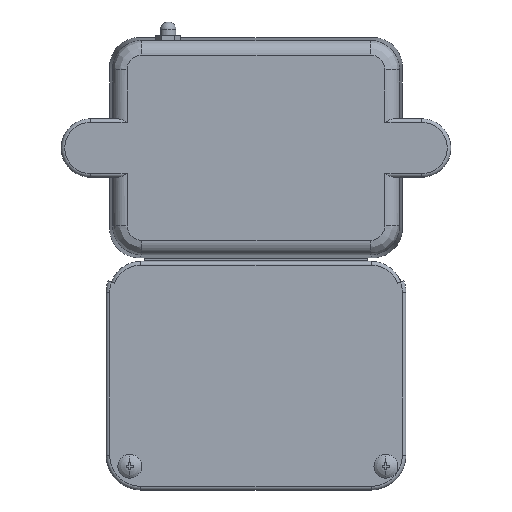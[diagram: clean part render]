
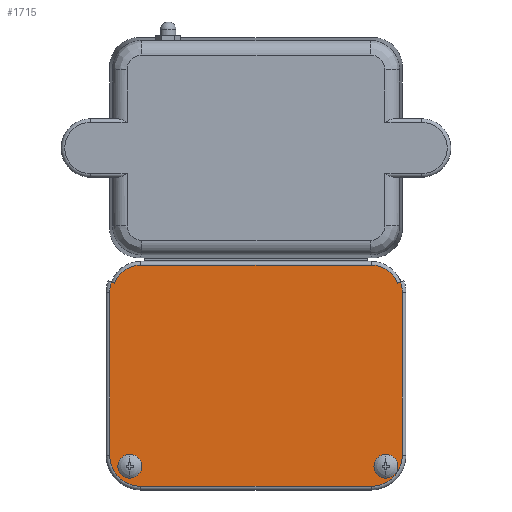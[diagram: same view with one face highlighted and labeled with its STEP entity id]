
A CAD part, front view. The second image highlights one B-rep face of the part: STEP entity #1715.
In plain terms, the highlighted planar face has unit normal (0, -1, 0).
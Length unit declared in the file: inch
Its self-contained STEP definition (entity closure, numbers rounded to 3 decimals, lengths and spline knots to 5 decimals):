
#302=DIRECTION('',(-1.,0.,0.));
#303=VECTOR('',#302,3.938);
#304=CARTESIAN_POINT('',(4.469,2.875,-0.124));
#305=LINE('',#304,#303);
#315=CARTESIAN_POINT('',(4.469,2.875,-0.593));
#316=DIRECTION('',(0.,-1.,0.));
#317=DIRECTION('',(0.94,0.,0.342));
#318=AXIS2_PLACEMENT_3D('',#315,#316,#317);
#412=DIRECTION('',(-0.94,0.,0.342));
#413=VECTOR('',#412,0.062);
#414=CARTESIAN_POINT('',(0.09028,2.875,-0.43259));
#415=LINE('',#414,#413);
#424=CARTESIAN_POINT('',(0.531,2.875,-0.593));
#425=DIRECTION('',(0.,-1.,0.));
#426=DIRECTION('',(0.,0.,1.));
#427=AXIS2_PLACEMENT_3D('',#424,#425,#426);
#444=CARTESIAN_POINT('',(0.531,2.875,-0.593));
#445=DIRECTION('',(0.,-1.,0.));
#446=DIRECTION('',(-0.94,0.,0.342));
#447=AXIS2_PLACEMENT_3D('',#444,#445,#446);
#459=DIRECTION('',(0.,0.,-1.));
#460=VECTOR('',#459,2.782);
#461=CARTESIAN_POINT('',(0.,2.875,-0.593));
#462=LINE('',#461,#460);
#472=CARTESIAN_POINT('',(0.531,2.875,-3.375));
#473=DIRECTION('',(0.,-1.,0.));
#474=DIRECTION('',(-1.,0.,0.));
#475=AXIS2_PLACEMENT_3D('',#472,#473,#474);
#487=DIRECTION('',(1.,0.,0.));
#488=VECTOR('',#487,3.938);
#489=CARTESIAN_POINT('',(0.531,2.875,-3.906));
#490=LINE('',#489,#488);
#500=CARTESIAN_POINT('',(4.469,2.875,-3.375));
#501=DIRECTION('',(0.,-1.,0.));
#502=DIRECTION('',(0.,0.,-1.));
#503=AXIS2_PLACEMENT_3D('',#500,#501,#502);
#515=DIRECTION('',(0.,0.,1.));
#516=VECTOR('',#515,2.782);
#517=CARTESIAN_POINT('',(5.,2.875,-3.375));
#518=LINE('',#517,#516);
#528=CARTESIAN_POINT('',(4.469,2.875,-0.593));
#529=DIRECTION('',(0.,-1.,0.));
#530=DIRECTION('',(1.,0.,0.));
#531=AXIS2_PLACEMENT_3D('',#528,#529,#530);
#548=DIRECTION('',(0.94,0.,0.342));
#549=VECTOR('',#548,0.062);
#550=CARTESIAN_POINT('',(4.90972,2.875,-0.43259));
#551=LINE('',#550,#549);
#1137=CARTESIAN_POINT('',(5.,2.875,-3.375));
#1138=CARTESIAN_POINT('',(5.,2.875,-0.593));
#1139=VERTEX_POINT('',#1137);
#1140=VERTEX_POINT('',#1138);
#1143=CARTESIAN_POINT('',(4.469,2.875,-3.906));
#1144=VERTEX_POINT('',#1143);
#1147=CARTESIAN_POINT('',(0.531,2.875,-3.906));
#1148=VERTEX_POINT('',#1147);
#1151=CARTESIAN_POINT('',(0.,2.875,-3.375));
#1152=VERTEX_POINT('',#1151);
#1155=CARTESIAN_POINT('',(0.,2.875,-0.593));
#1156=VERTEX_POINT('',#1155);
#1161=CARTESIAN_POINT('',(4.90972,2.875,-0.43259));
#1162=CARTESIAN_POINT('',(4.469,2.875,-0.124));
#1163=VERTEX_POINT('',#1161);
#1164=VERTEX_POINT('',#1162);
#1169=CARTESIAN_POINT('',(0.531,2.875,-0.124));
#1170=VERTEX_POINT('',#1169);
#1173=CARTESIAN_POINT('',(0.09028,2.875,-0.43259));
#1174=VERTEX_POINT('',#1173);
#1177=CARTESIAN_POINT('',(0.03202,2.875,-0.41139));
#1178=VERTEX_POINT('',#1177);
#1179=CARTESIAN_POINT('',(4.96798,2.875,-0.41139));
#1180=VERTEX_POINT('',#1179);
#1685=CARTESIAN_POINT('',(0.,2.875,0.));
#1686=DIRECTION('',(0.,-1.,0.));
#1687=DIRECTION('',(1.,0.,0.));
#1688=AXIS2_PLACEMENT_3D('',#1685,#1686,#1687);
#1689=PLANE('',#1688);
#1691=ORIENTED_EDGE('',*,*,#1690,.F.);
#1693=ORIENTED_EDGE('',*,*,#1692,.T.);
#1695=ORIENTED_EDGE('',*,*,#1694,.F.);
#1697=ORIENTED_EDGE('',*,*,#1696,.F.);
#1699=ORIENTED_EDGE('',*,*,#1698,.F.);
#1701=ORIENTED_EDGE('',*,*,#1700,.F.);
#1703=ORIENTED_EDGE('',*,*,#1702,.F.);
#1705=ORIENTED_EDGE('',*,*,#1704,.F.);
#1707=ORIENTED_EDGE('',*,*,#1706,.F.);
#1709=ORIENTED_EDGE('',*,*,#1708,.F.);
#1711=ORIENTED_EDGE('',*,*,#1710,.F.);
#1712=ORIENTED_EDGE('',*,*,#1675,.F.);
#1713=EDGE_LOOP('',(#1691,#1693,#1695,#1697,#1699,#1701,#1703,#1705,#1707,#1709,
#1711,#1712));
#1714=FACE_OUTER_BOUND('',#1713,.F.);
#1715=ADVANCED_FACE('',(#1714),#1689,.T.);
#319=CIRCLE('',#318,0.469);
#428=CIRCLE('',#427,0.469);
#448=CIRCLE('',#447,0.531);
#476=CIRCLE('',#475,0.531);
#504=CIRCLE('',#503,0.531);
#532=CIRCLE('',#531,0.531);
#1675=EDGE_CURVE('',#1164,#1170,#305,.T.);
#1690=EDGE_CURVE('',#1163,#1164,#319,.T.);
#1692=EDGE_CURVE('',#1163,#1180,#551,.T.);
#1694=EDGE_CURVE('',#1140,#1180,#532,.T.);
#1696=EDGE_CURVE('',#1139,#1140,#518,.T.);
#1698=EDGE_CURVE('',#1144,#1139,#504,.T.);
#1700=EDGE_CURVE('',#1148,#1144,#490,.T.);
#1702=EDGE_CURVE('',#1152,#1148,#476,.T.);
#1704=EDGE_CURVE('',#1156,#1152,#462,.T.);
#1706=EDGE_CURVE('',#1178,#1156,#448,.T.);
#1708=EDGE_CURVE('',#1174,#1178,#415,.T.);
#1710=EDGE_CURVE('',#1170,#1174,#428,.T.);
